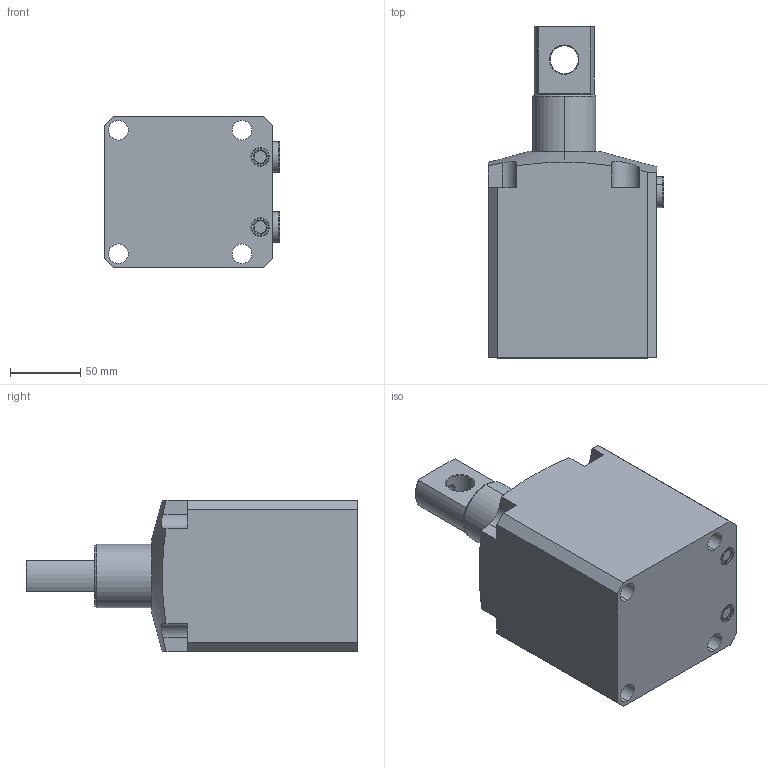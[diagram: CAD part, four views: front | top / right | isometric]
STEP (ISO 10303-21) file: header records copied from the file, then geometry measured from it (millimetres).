
FILE_DESCRIPTION(/* description */ (''),/* implementation_level */ '2;1');
FILE_NAME(/* name */ 'BRC25-P.stp',/* time_stamp */ '2025-01-05T09:04:34+08:00',/* author */ (''),/* organization */ (''),/* preprocessor_version */ 'ST-DEVELOPER v16.7',/* originating_system */ 'SIEMENS PLM Software NX 12.0',/* authorisation */ '');
FILE_SCHEMA (('AUTOMOTIVE_DESIGN { 1 0 10303 214 3 1 1 1 }'));
Length unit declared in the file: millimetre
Products named in the file (4): BRC25-P-03; BRC25-P-02; BRC25-P-01; BRC25-RP_stp
Assembly tree (4 placements, depth 2):
  BRC25-RP_stp
    BRC25-P-01
    BRC25-P-02
    BRC25-P-03  x2
Bounding box: 124.8 x 236.5 x 108 mm (x, y, z)
Volume: 1776228.6 mm3; surface area: 134049.7 mm2
Topology: 6 solids, 6 shells, 148 faces, 341 edges, 214 vertices
Faces by surface type: plane 57, cylinder 51, torus 20, cone 20
Full cylindrical faces by diameter (mm): 13 x2
Entity records: 3910 total; most frequent: CARTESIAN_POINT 846, DIRECTION 649, ORIENTED_EDGE 586, EDGE_CURVE 293, AXIS2_PLACEMENT_3D 262, VERTEX_POINT 186, EDGE_LOOP 151, CIRCLE 131
